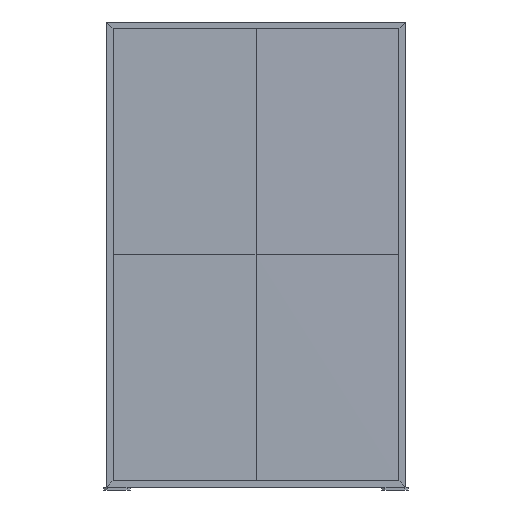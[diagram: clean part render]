
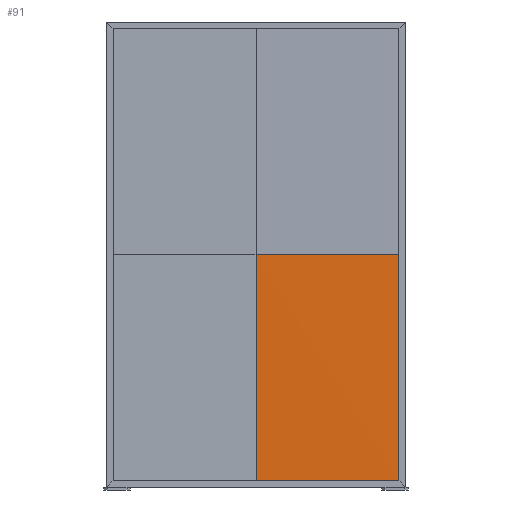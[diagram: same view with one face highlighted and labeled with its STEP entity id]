
A CAD part, front view. The second image highlights one B-rep face of the part: STEP entity #91.
In plain terms, the highlighted free-form (B-spline) face has degree [3, 3] with [6, 6] control points.
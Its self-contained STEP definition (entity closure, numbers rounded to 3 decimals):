
#36=B_SPLINE_SURFACE_WITH_KNOTS('',3,3,((#2031,#2032,#2033,#2034,#2035,
#2036),(#2037,#2038,#2039,#2040,#2041,#2042),(#2043,#2044,#2045,#2046,#2047,
#2048),(#2049,#2050,#2051,#2052,#2053,#2054),(#2055,#2056,#2057,#2058,#2059,
#2060),(#2061,#2062,#2063,#2064,#2065,#2066)),.UNSPECIFIED.,.F.,.F.,.F.,
(4,1,1,4),(4,1,1,4),(-680.,-620.,-590.,0.),(0.,60.,90.,430.),
 .UNSPECIFIED.);
#91=ADVANCED_FACE('',(#175),#36,.T.);
#175=FACE_OUTER_BOUND('',#263,.T.);
#263=EDGE_LOOP('',(#445,#446,#447,#448));
#445=ORIENTED_EDGE('',*,*,#764,.F.);
#446=ORIENTED_EDGE('',*,*,#770,.F.);
#447=ORIENTED_EDGE('',*,*,#769,.F.);
#448=ORIENTED_EDGE('',*,*,#768,.F.);
#764=EDGE_CURVE('',#1139,#1136,#984,.T.);
#768=EDGE_CURVE('',#1136,#1142,#988,.T.);
#769=EDGE_CURVE('',#1142,#1143,#989,.T.);
#770=EDGE_CURVE('',#1143,#1139,#990,.T.);
#984=B_SPLINE_CURVE_WITH_KNOTS('',3,(#2130,#2131,#2132,#2133,#2134,#2135),
 .UNSPECIFIED.,.F.,.F.,(4,1,1,4),(0.,340.,370.,430.),.UNSPECIFIED.);
#988=B_SPLINE_CURVE_WITH_KNOTS('',3,(#2154,#2155,#2156,#2157,#2158,#2159),
 .UNSPECIFIED.,.F.,.F.,(4,1,1,4),(0.,590.,620.,680.),.UNSPECIFIED.);
#989=B_SPLINE_CURVE_WITH_KNOTS('',3,(#2160,#2161,#2162,#2163,#2164,#2165),
 .UNSPECIFIED.,.F.,.F.,(4,1,1,4),(0.,60.,90.,430.),
 .UNSPECIFIED.);
#990=B_SPLINE_CURVE_WITH_KNOTS('',3,(#2166,#2167,#2168,#2169,#2170,#2171),
 .UNSPECIFIED.,.F.,.F.,(4,1,1,4),(0.,60.,90.,680.),.UNSPECIFIED.);
#1136=VERTEX_POINT('',#2103);
#1139=VERTEX_POINT('',#2106);
#1142=VERTEX_POINT('',#2109);
#1143=VERTEX_POINT('',#2110);
#2031=CARTESIAN_POINT('',(430.,-8.,28.));
#2032=CARTESIAN_POINT('',(410.,-8.,28.));
#2033=CARTESIAN_POINT('',(380.,-8.,28.));
#2034=CARTESIAN_POINT('',(236.667,-8.,28.));
#2035=CARTESIAN_POINT('',(113.333,-8.,28.));
#2036=CARTESIAN_POINT('',(0.,-8.,28.));
#2037=CARTESIAN_POINT('',(430.,-8.,48.));
#2038=CARTESIAN_POINT('',(410.,-11.,48.));
#2039=CARTESIAN_POINT('',(380.,-11.,48.));
#2040=CARTESIAN_POINT('',(236.667,-11.,48.));
#2041=CARTESIAN_POINT('',(113.333,-11.,48.));
#2042=CARTESIAN_POINT('',(0.,-11.,48.));
#2043=CARTESIAN_POINT('',(430.,-8.,78.));
#2044=CARTESIAN_POINT('',(410.,-11.,78.));
#2045=CARTESIAN_POINT('',(380.,-11.,78.));
#2046=CARTESIAN_POINT('',(236.667,-11.,78.));
#2047=CARTESIAN_POINT('',(113.333,-11.,78.));
#2048=CARTESIAN_POINT('',(0.,-11.,78.));
#2049=CARTESIAN_POINT('',(430.,-8.,304.667));
#2050=CARTESIAN_POINT('',(410.,-11.,304.667));
#2051=CARTESIAN_POINT('',(380.,-11.,304.667));
#2052=CARTESIAN_POINT('',(236.667,-11.,304.667));
#2053=CARTESIAN_POINT('',(113.333,-11.,304.667));
#2054=CARTESIAN_POINT('',(0.,-11.,304.667));
#2055=CARTESIAN_POINT('',(430.,-8.,511.333));
#2056=CARTESIAN_POINT('',(410.,-11.,511.333));
#2057=CARTESIAN_POINT('',(380.,-11.,511.333));
#2058=CARTESIAN_POINT('',(236.667,-11.,511.333));
#2059=CARTESIAN_POINT('',(113.333,-11.,511.333));
#2060=CARTESIAN_POINT('',(0.,-11.,511.333));
#2061=CARTESIAN_POINT('',(430.,-8.,708.));
#2062=CARTESIAN_POINT('',(410.,-11.,708.));
#2063=CARTESIAN_POINT('',(380.,-11.,708.));
#2064=CARTESIAN_POINT('',(236.667,-11.,708.));
#2065=CARTESIAN_POINT('',(113.333,-11.,708.));
#2066=CARTESIAN_POINT('',(0.,-11.,708.));
#2103=CARTESIAN_POINT('',(430.,-8.,708.));
#2106=CARTESIAN_POINT('',(0.,-11.,708.));
#2109=CARTESIAN_POINT('',(430.,-8.,28.));
#2110=CARTESIAN_POINT('',(0.,-8.,28.));
#2130=CARTESIAN_POINT('',(0.,-11.,708.));
#2131=CARTESIAN_POINT('',(113.333,-11.,708.));
#2132=CARTESIAN_POINT('',(236.667,-11.,708.));
#2133=CARTESIAN_POINT('',(380.,-11.,708.));
#2134=CARTESIAN_POINT('',(410.,-11.,708.));
#2135=CARTESIAN_POINT('',(430.,-8.,708.));
#2154=CARTESIAN_POINT('',(430.,-8.,708.));
#2155=CARTESIAN_POINT('',(430.,-8.,511.333));
#2156=CARTESIAN_POINT('',(430.,-8.,304.667));
#2157=CARTESIAN_POINT('',(430.,-8.,78.));
#2158=CARTESIAN_POINT('',(430.,-8.,48.));
#2159=CARTESIAN_POINT('',(430.,-8.,28.));
#2160=CARTESIAN_POINT('',(430.,-8.,28.));
#2161=CARTESIAN_POINT('',(410.,-8.,28.));
#2162=CARTESIAN_POINT('',(380.,-8.,28.));
#2163=CARTESIAN_POINT('',(236.667,-8.,28.));
#2164=CARTESIAN_POINT('',(113.333,-8.,28.));
#2165=CARTESIAN_POINT('',(0.,-8.,28.));
#2166=CARTESIAN_POINT('',(0.,-8.,28.));
#2167=CARTESIAN_POINT('',(0.,-11.,48.));
#2168=CARTESIAN_POINT('',(0.,-11.,78.));
#2169=CARTESIAN_POINT('',(0.,-11.,304.667));
#2170=CARTESIAN_POINT('',(0.,-11.,511.333));
#2171=CARTESIAN_POINT('',(0.,-11.,708.));
